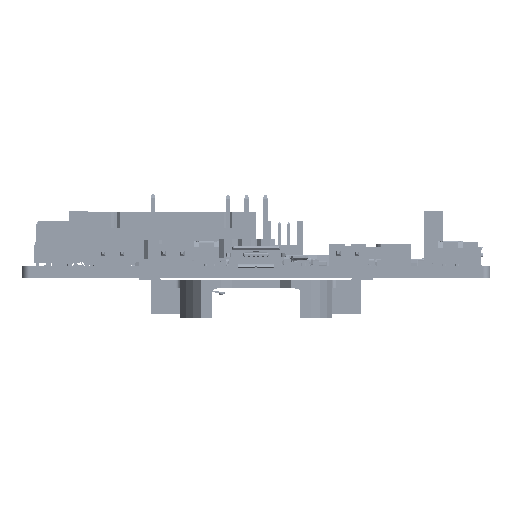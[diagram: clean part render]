
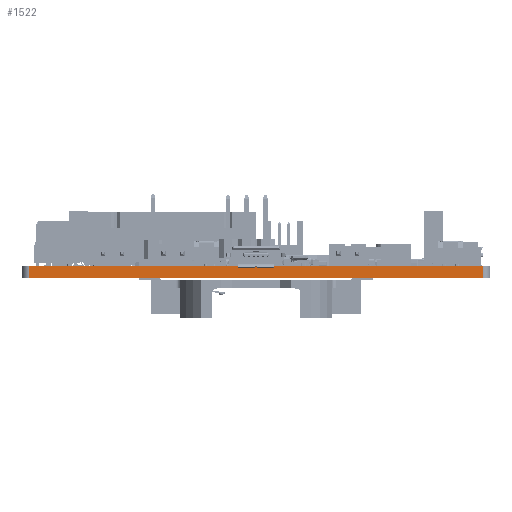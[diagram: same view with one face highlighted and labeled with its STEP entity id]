
A CAD part, left-side view. The second image highlights one B-rep face of the part: STEP entity #1522.
In plain terms, the highlighted planar face has unit normal (-1, 0, 0).
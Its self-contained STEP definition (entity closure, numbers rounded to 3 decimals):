
#1495 = VERTEX_POINT('',#1496);
#1496 = CARTESIAN_POINT('',(0.,62.484,
    1.6));
#1503 = EDGE_CURVE('',#1504,#1495,#1506,.T.);
#1504 = VERTEX_POINT('',#1505);
#1505 = CARTESIAN_POINT('',(0.,62.484,0.)
  );
#1506 = LINE('',#1507,#1508);
#1507 = CARTESIAN_POINT('',(0.,62.484,0.)
  );
#1508 = VECTOR('',#1509,1.);
#1509 = DIRECTION('',(0.,0.,1.));
#1522 = ADVANCED_FACE('',(#1523),#1548,.F.);
#1523 = FACE_BOUND('',#1524,.F.);
#1524 = EDGE_LOOP('',(#1525,#1526,#1534,#1542));
#1525 = ORIENTED_EDGE('',*,*,#1503,.T.);
#1526 = ORIENTED_EDGE('',*,*,#1527,.T.);
#1527 = EDGE_CURVE('',#1495,#1528,#1530,.T.);
#1528 = VERTEX_POINT('',#1529);
#1529 = CARTESIAN_POINT('',(0.,1.016,1.6));
#1530 = LINE('',#1531,#1532);
#1531 = CARTESIAN_POINT('',(0.,62.484,1.6));
#1532 = VECTOR('',#1533,1.);
#1533 = DIRECTION('',(0.,-1.,0.));
#1534 = ORIENTED_EDGE('',*,*,#1535,.F.);
#1535 = EDGE_CURVE('',#1536,#1528,#1538,.T.);
#1536 = VERTEX_POINT('',#1537);
#1537 = CARTESIAN_POINT('',(0.,1.016,0.));
#1538 = LINE('',#1539,#1540);
#1539 = CARTESIAN_POINT('',(0.,1.016,0.));
#1540 = VECTOR('',#1541,1.);
#1541 = DIRECTION('',(0.,0.,1.));
#1542 = ORIENTED_EDGE('',*,*,#1543,.F.);
#1543 = EDGE_CURVE('',#1504,#1536,#1544,.T.);
#1544 = LINE('',#1545,#1546);
#1545 = CARTESIAN_POINT('',(0.,62.484,0.));
#1546 = VECTOR('',#1547,1.);
#1547 = DIRECTION('',(0.,-1.,0.));
#1548 = PLANE('',#1549);
#1549 = AXIS2_PLACEMENT_3D('',#1550,#1551,#1552);
#1550 = CARTESIAN_POINT('',(0.,62.484,0.));
#1551 = DIRECTION('',(1.,0.,0.));
#1552 = DIRECTION('',(0.,-1.,0.));
